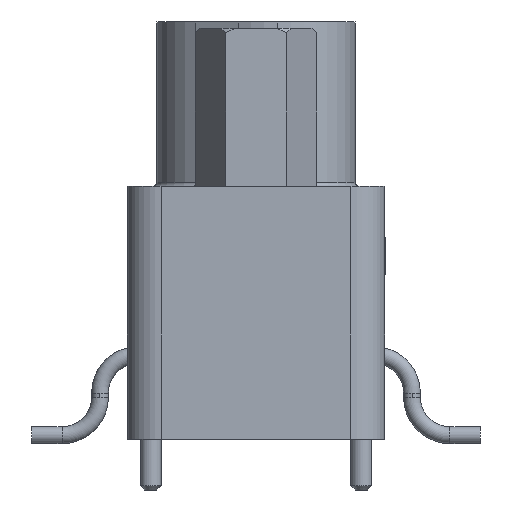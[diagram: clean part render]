
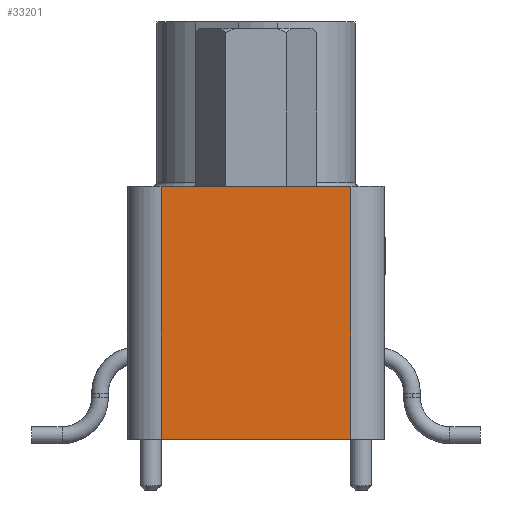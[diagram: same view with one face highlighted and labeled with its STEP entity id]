
A CAD part, left-side view. The second image highlights one B-rep face of the part: STEP entity #33201.
In plain terms, the highlighted planar face has unit normal (-1, 0, 0).
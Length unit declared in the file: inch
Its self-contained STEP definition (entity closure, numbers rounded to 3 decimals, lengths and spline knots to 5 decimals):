
#2832 = AXIS2_PLACEMENT_3D ( 'NONE', #31127, #31131, #31132 ) ;
#6001 = FACE_OUTER_BOUND ( 'NONE', #15534, .T. ) ;
#13492 = EDGE_CURVE ( 'NONE', #42982, #43209, #41926, .T. ) ;
#13510 = EDGE_CURVE ( 'NONE', #44069, #43209, #41944, .T. ) ;
#13511 = EDGE_CURVE ( 'NONE', #43365, #44069, #41955, .T. ) ;
#13512 = EDGE_CURVE ( 'NONE', #43365, #42982, #41954, .T. ) ;
#15534 = EDGE_LOOP ( 'NONE', ( #40517, #40576, #40549, #40544 ) ) ;
#17108 = CARTESIAN_POINT ( 'NONE',  ( -0.6625, -0.1125, -0.26 ) ) ;
#20639 = CARTESIAN_POINT ( 'NONE',  ( -0.6625, 0.1125, 0.04 ) ) ;
#20861 = CARTESIAN_POINT ( 'NONE',  ( -0.6625, 0.1125, -0.26 ) ) ;
#21012 = CARTESIAN_POINT ( 'NONE',  ( -0.6625, -0.1125, 0.04 ) ) ;
#31127 = CARTESIAN_POINT ( 'NONE',  ( -0.6625, -0.1125, 0.04 ) ) ;
#31129 = PLANE ( 'NONE',  #2832 ) ;
#31131 = DIRECTION ( 'NONE',  ( -1., 0., 0. ) ) ;
#31132 = DIRECTION ( 'NONE',  ( 0., 0., 1. ) ) ;
#33201 = ADVANCED_FACE ( 'NONE', ( #6001 ), #31129, .T. ) ;
#37124 = CARTESIAN_POINT ( 'NONE',  ( -0.6625, 0.1125, 0.04 ) ) ;
#37159 = DIRECTION ( 'NONE',  ( 0., 1., 0. ) ) ;
#37160 = DIRECTION ( 'NONE',  ( 0., 0., -1. ) ) ;
#37164 = CARTESIAN_POINT ( 'NONE',  ( -0.6625, -0.1125, 0.04 ) ) ;
#37167 = DIRECTION ( 'NONE',  ( 0., 0., -1. ) ) ;
#37173 = CARTESIAN_POINT ( 'NONE',  ( -0.6625, -0.1125, -0.26 ) ) ;
#37176 = CARTESIAN_POINT ( 'NONE',  ( -0.6625, -0.1125, 0.04 ) ) ;
#37185 = DIRECTION ( 'NONE',  ( 0., 1., 0. ) ) ;
#40517 = ORIENTED_EDGE ( 'NONE', *, *, #13492, .T. ) ;
#40544 = ORIENTED_EDGE ( 'NONE', *, *, #13512, .T. ) ;
#40549 = ORIENTED_EDGE ( 'NONE', *, *, #13511, .F. ) ;
#40576 = ORIENTED_EDGE ( 'NONE', *, *, #13510, .F. ) ;
#41926 = LINE ( 'NONE', #37124, #41928 ) ;
#41928 = VECTOR ( 'NONE', #37167, 39.37008 ) ;
#41944 = LINE ( 'NONE', #37173, #41956 ) ;
#41954 = LINE ( 'NONE', #37176, #41960 ) ;
#41955 = LINE ( 'NONE', #37164, #41958 ) ;
#41956 = VECTOR ( 'NONE', #37185, 39.37008 ) ;
#41958 = VECTOR ( 'NONE', #37160, 39.37008 ) ;
#41960 = VECTOR ( 'NONE', #37159, 39.37008 ) ;
#42982 = VERTEX_POINT ( 'NONE', #20639 ) ;
#43209 = VERTEX_POINT ( 'NONE', #20861 ) ;
#43365 = VERTEX_POINT ( 'NONE', #21012 ) ;
#44069 = VERTEX_POINT ( 'NONE', #17108 ) ;
